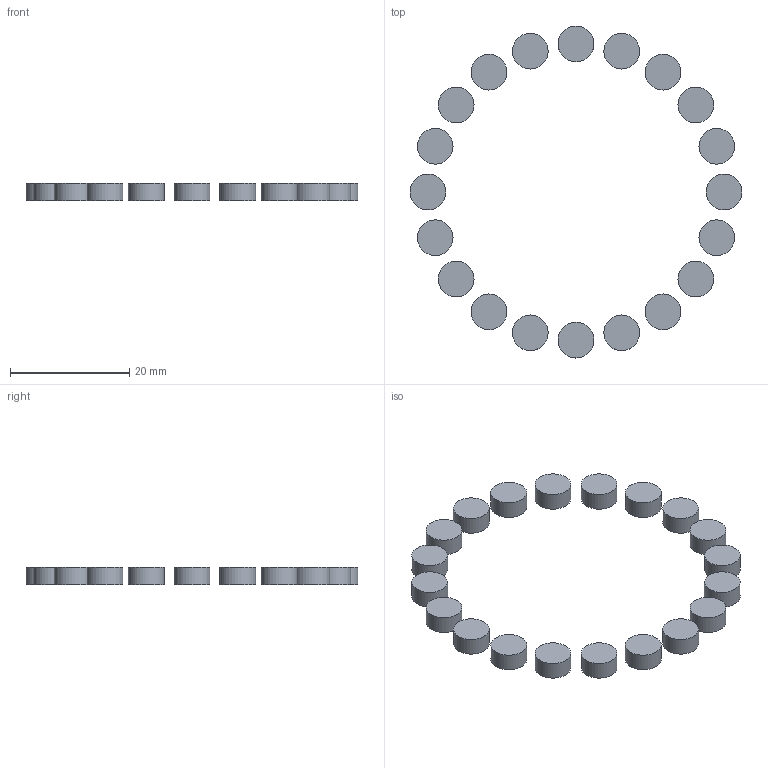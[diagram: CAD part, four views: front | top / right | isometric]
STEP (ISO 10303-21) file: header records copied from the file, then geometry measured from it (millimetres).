
FILE_DESCRIPTION(('Open CASCADE Model'),'2;1');
FILE_NAME('Open CASCADE Shape Model','2026-11-13T05:00:01',('Author'),( 'Open CASCADE'),'Open CASCADE STEP processor 7.9','Open CASCADE 7.9' ,'Unknown');
FILE_SCHEMA(('AUTOMOTIVE_DESIGN { 1 0 10303 214 1 1 1 1 }'));
Length unit declared in the file: millimetre
Products named in the file (21): Open CASCADE STEP translator 7.9 13; Open CASCADE STEP translator 7.9 13.1; Open CASCADE STEP translator 7.9 13.2; Open CASCADE STEP translator 7.9 13.3; Open CASCADE STEP translator 7.9 13.4; Open CASCADE STEP translator 7.9 13.5; Open CASCADE STEP translator 7.9 13.6; Open CASCADE STEP translator 7.9 13.7; Open CASCADE STEP translator 7.9 13.8; Open CASCADE STEP translator 7.9 13.9; Open CASCADE STEP translator 7.9 13.10; Open CASCADE STEP translator 7.9 13.11; Open CASCADE STEP translator 7.9 13.12; Open CASCADE STEP translator 7.9 13.13; Open CASCADE STEP translator 7.9 13.14; Open CASCADE STEP translator 7.9 13.15; Open CASCADE STEP translator 7.9 13.16; Open CASCADE STEP translator 7.9 13.17; Open CASCADE STEP translator 7.9 13.18; Open CASCADE STEP translator 7.9 13.19; Open CASCADE STEP translator 7.9 13.20
Assembly tree (20 placements, depth 2):
  Open CASCADE STEP translator 7.9 13
    Open CASCADE STEP translator 7.9 13.1
    Open CASCADE STEP translator 7.9 13.2
    Open CASCADE STEP translator 7.9 13.3
    Open CASCADE STEP translator 7.9 13.4
    Open CASCADE STEP translator 7.9 13.5
    Open CASCADE STEP translator 7.9 13.6
    Open CASCADE STEP translator 7.9 13.7
    Open CASCADE STEP translator 7.9 13.8
    Open CASCADE STEP translator 7.9 13.9
    Open CASCADE STEP translator 7.9 13.10
    Open CASCADE STEP translator 7.9 13.11
    Open CASCADE STEP translator 7.9 13.12
    Open CASCADE STEP translator 7.9 13.13
    Open CASCADE STEP translator 7.9 13.14
    Open CASCADE STEP translator 7.9 13.15
    Open CASCADE STEP translator 7.9 13.16
    Open CASCADE STEP translator 7.9 13.17
    Open CASCADE STEP translator 7.9 13.18
    Open CASCADE STEP translator 7.9 13.19
    Open CASCADE STEP translator 7.9 13.20
Bounding box: 55.7 x 55.7 x 3 mm (x, y, z)
Volume: 1696.5 mm3; surface area: 2261.9 mm2
Topology: 20 solids, 20 shells, 60 faces, 60 edges, 40 vertices
Faces by surface type: plane 40, cylinder 20
Full cylindrical faces by diameter (mm): 6 x20
Entity records: 2216 total; most frequent: DIRECTION 382, CARTESIAN_POINT 301, AXIS2_PLACEMENT_3D 121, ORIENTED_EDGE 120, PCURVE 120, DEFINITIONAL_REPRESENTATION 120, LINE 100, VECTOR 100
